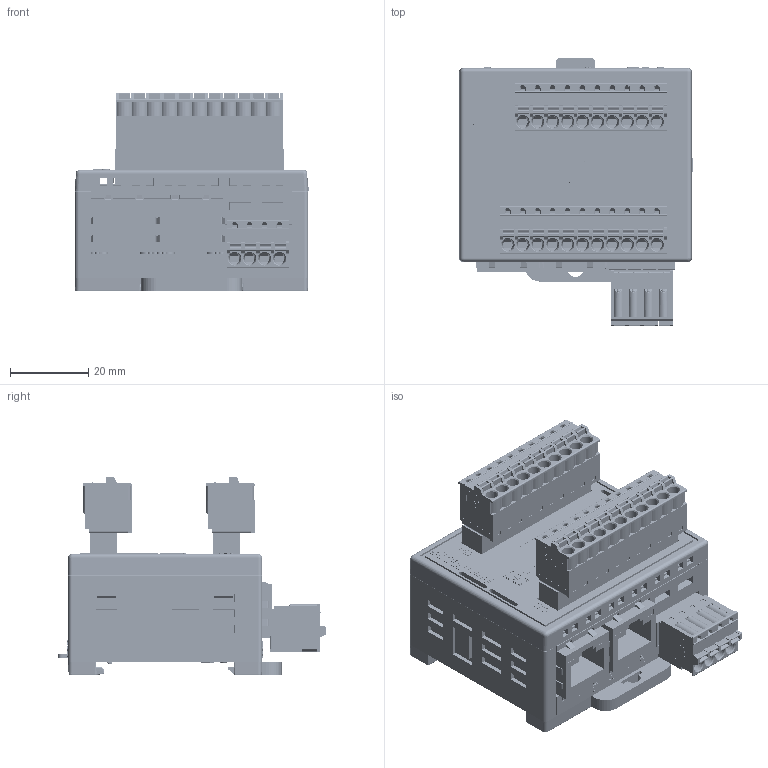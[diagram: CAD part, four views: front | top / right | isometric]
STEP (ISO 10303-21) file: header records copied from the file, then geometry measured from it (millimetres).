
FILE_DESCRIPTION((''),'2;1');
FILE_NAME('EICBPF0W','2026-05-11T14:40:32',('gijyu181'),(''),'CREO PARAMETRIC BY PTC INC, 2018050','CREO PARAMETRIC BY PTC INC, 2018050','');
FILE_SCHEMA(('CONFIG_CONTROL_DESIGN','SHAPE_APPEARANCE_LAYERS_GROUPS'));
Products named in the file (1): EICBPF0W
Bounding box: 59.75 x 68.55 x 50.7 mm (x, y, z)
Volume: 71057.8 mm3; surface area: 53383.1 mm2
Topology: 1 solids, 53 shells, 10016 faces, 28042 edges, 18442 vertices
Faces by surface type: plane 7195, cylinder 1605, extrusion 748, cone 274, sphere 94, torus 76, bspline 24
Entity records: 435890 total; most frequent: CARTESIAN_POINT 80928, ORIENTED_EDGE 54774, DIRECTION 47547, EDGE_CURVE 28028, VECTOR 22645, PRESENTATION_STYLE_ASSIGNMENT 22107, LINE 21897, STYLED_ITEM 18881
